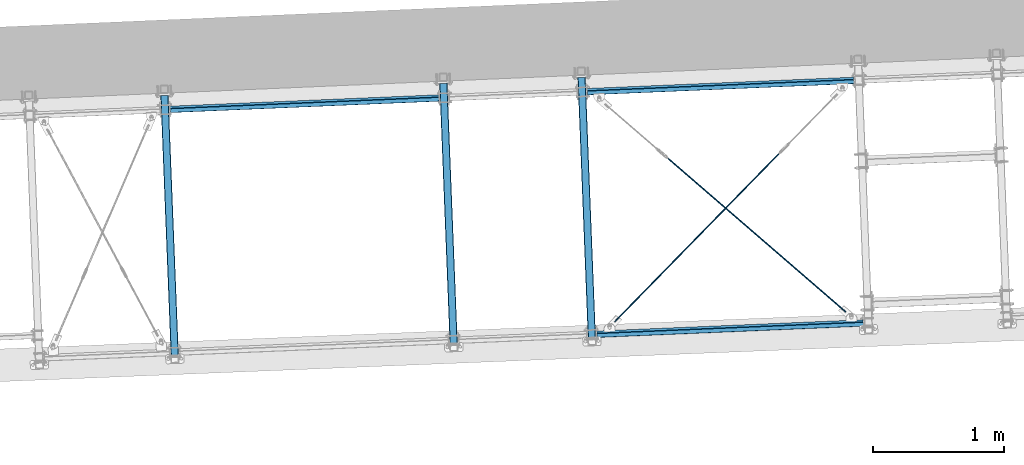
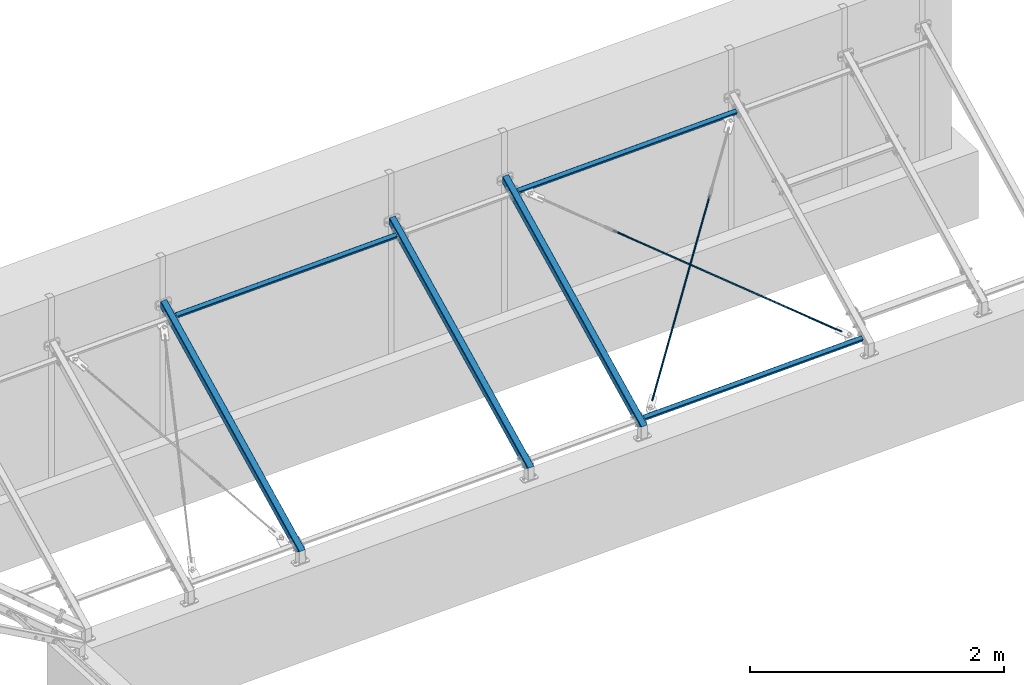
# One storey, part 16 of 288: 8 members, 48 openings.
"""IFC2X3 building model written with IfcOpenShell, lengths in millimetres."""

from ifc_helpers import new_model, entity, si_unit, converted_unit, frame, frame_2d, origin, origin_with_axes, origin_2d, place, context, project, spatial, hollow_rectangle, circle, extrude, clip, halfspace, material, element, save


model = new_model("IFC2X3")

# Units and contexts
model_context = context("Model", 3, precision=1e-09, world=origin_with_axes())
ifc_project = project(units=[si_unit("LENGTHUNIT", "METRE", prefix="MILLI"), si_unit("AREAUNIT", "SQUARE_METRE"), si_unit("VOLUMEUNIT", "CUBIC_METRE"), converted_unit("PLANEANGLEUNIT", "DEGREE", entity("IfcPlaneAngleMeasure", 0.01745329), si_unit("PLANEANGLEUNIT", "RADIAN"), dimensions=[0, 0, 0, 0, 0, 0, 0])], contexts=[model_context])

# Site, building, storey
site_placement = place(None, origin_with_axes())
site = spatial("IfcSite", under=ifc_project, at=site_placement, Name="Remont ?wietlik?w nad MC w NCPP w Opolu", CompositionType="ELEMENT")
building_placement = place(site_placement, origin_with_axes())
building = spatial("IfcBuilding", under=site, at=building_placement, Name="Konstrukcja 1", CompositionType="ELEMENT")
storey_placement = place(building_placement, origin_with_axes())
storey = spatial("IfcBuildingStorey", under=building, at=storey_placement, Name="Default Storey", CompositionType="ELEMENT", Elevation=0.0)

# Member, openings
ifc_material_1 = material(Name="S235")
member_1_placement = place(None, frame((3388.943951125, 15743.661736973, 1324.345231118), z_axis=(0.034017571, -0.862871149, -0.504277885), x_axis=(-0.019865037, 0.503886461, -0.863541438)))
member_1 = element("IfcMember", 1, at=member_1_placement, inside=storey, material=ifc_material_1, Name="Horizontal_Beam", ObjectType="Horizontal_Beam", context=model_context, shape_type="Clipping", body=[
    clip(clip(clip(extrude(hollow_rectangle(XDim=60.0, YDim=60.0, WallThickness=3.0, InnerFilletRadius=3.0, OuterFilletRadius=6.0, at=origin_2d()), origin(), (0.0, 0.0, 1.0), 2457.666448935), halfspace(frame((1119.797490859, -4006.501277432, 708.64418541), z_axis=(-0.504277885, -2.27e-07, 0.863541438), x_axis=(0.0, 1.0, 2.09e-07)), True)), halfspace(frame((1111.641855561, -4006.504803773, 722.610153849), z_axis=(-0.504277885, 0.0, 0.863541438), x_axis=(0.0, 1.0, 0.0)), True)), halfspace(frame((-10119.979373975, -4006.504700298, 8218.193877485), z_axis=(-0.497856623, 0.0, -0.867259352), x_axis=(0.0, -1.0, 0.0)), True)),
])
opening_1_placement = place(member_1_placement, frame((7.306889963, 26.273066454, 159.307733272), z_axis=(-0.001744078, -0.999995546, 0.002422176), x_axis=(0.999998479, -0.001744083, 0.0)))
element("IfcOpeningElement", 2, at=opening_1_placement, cuts=member_1, ObjectType="Opening", context=model_context, shape_type="SweptSolid", body=[
    extrude(circle(Radius=7.001, at=frame_2d((-7.000994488, -0.008785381), x_axis=(1.0, 0.0))), origin(), (0.0, 0.0, -1.0), 4.232758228),
])
opening_2_placement = place(member_1_placement, frame((7.206838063, 26.467015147, 239.307435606), z_axis=(-0.001744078, -0.999995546, 0.002422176), x_axis=(0.999998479, -0.001744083, 0.0)))
element("IfcOpeningElement", 3, at=opening_2_placement, cuts=member_1, ObjectType="Opening", context=model_context, shape_type="SweptSolid", body=[
    extrude(circle(Radius=7.001, at=frame_2d((-7.000994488, -0.008785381), x_axis=(1.0, 0.0))), origin(), (0.0, 0.0, -1.0), 4.232758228),
])
opening_3_placement = place(member_1_placement, frame((7.306889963, 26.273066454, 159.307733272), z_axis=(-0.001744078, -0.999995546, 0.002422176), x_axis=(0.999998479, -0.001744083, 0.0)))
element("IfcOpeningElement", 4, at=opening_3_placement, cuts=member_1, ObjectType="Opening", context=model_context, shape_type="SweptSolid", body=[
    extrude(circle(Radius=7.001, at=frame_2d((-7.000994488, -0.008785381), x_axis=(1.0, 0.0))), origin(), (0.0, 0.0, -1.0), 4.038808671),
])
opening_4_placement = place(member_1_placement, frame((7.206838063, 26.467015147, 239.307435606), z_axis=(-0.001744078, -0.999995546, 0.002422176), x_axis=(0.999998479, -0.001744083, 0.0)))
element("IfcOpeningElement", 5, at=opening_4_placement, cuts=member_1, ObjectType="Opening", context=model_context, shape_type="SweptSolid", body=[
    extrude(circle(Radius=7.001, at=frame_2d((-7.000994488, -0.008785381), x_axis=(1.0, 0.0))), origin(), (0.0, 0.0, -1.0), 4.038808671),
])
opening_5_placement = place(member_1_placement, frame((7.207477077, -30.726933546, 159.445797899), z_axis=(-0.001744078, -0.999995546, 0.002422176), x_axis=(0.999998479, -0.001744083, 0.0)))
element("IfcOpeningElement", 6, at=opening_5_placement, cuts=member_1, ObjectType="Opening", context=model_context, shape_type="SweptSolid", body=[
    extrude(circle(Radius=7.001, at=frame_2d((-7.000994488, -0.008785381), x_axis=(1.0, 0.0))), origin(), (0.0, 0.0, -1.0), 4.232758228),
])
opening_6_placement = place(member_1_placement, frame((7.107425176, -30.532984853, 239.445500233), z_axis=(-0.001744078, -0.999995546, 0.002422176), x_axis=(0.999998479, -0.001744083, 0.0)))
element("IfcOpeningElement", 7, at=opening_6_placement, cuts=member_1, ObjectType="Opening", context=model_context, shape_type="SweptSolid", body=[
    extrude(circle(Radius=7.001, at=frame_2d((-7.000994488, -0.008785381), x_axis=(1.0, 0.0))), origin(), (0.0, 0.0, -1.0), 4.232758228),
])
opening_7_placement = place(member_1_placement, frame((7.207477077, -30.726933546, 159.445797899), z_axis=(-0.001744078, -0.999995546, 0.002422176), x_axis=(0.999998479, -0.001744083, 0.0)))
element("IfcOpeningElement", 8, at=opening_7_placement, cuts=member_1, ObjectType="Opening", context=model_context, shape_type="SweptSolid", body=[
    extrude(circle(Radius=7.001, at=frame_2d((-7.000994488, -0.008785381), x_axis=(1.0, 0.0))), origin(), (0.0, 0.0, -1.0), 4.038808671),
])
opening_8_placement = place(member_1_placement, frame((7.107425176, -30.532984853, 239.445500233), z_axis=(-0.001744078, -0.999995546, 0.002422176), x_axis=(0.999998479, -0.001744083, 0.0)))
element("IfcOpeningElement", 9, at=opening_8_placement, cuts=member_1, ObjectType="Opening", context=model_context, shape_type="SweptSolid", body=[
    extrude(circle(Radius=7.001, at=frame_2d((-7.000994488, -0.008785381), x_axis=(1.0, 0.0))), origin(), (0.0, 0.0, -1.0), 4.038808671),
])
opening_9_placement = place(member_1_placement, frame((6.551466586, 26.273066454, 2308.498972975), z_axis=(-0.001744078, -0.999995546, 0.002422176), x_axis=(0.999998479, -0.001744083, 0.0)))
element("IfcOpeningElement", 10, at=opening_9_placement, cuts=member_1, ObjectType="Opening", context=model_context, shape_type="SweptSolid", body=[
    extrude(circle(Radius=7.001, at=frame_2d((-7.000994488, -0.008785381), x_axis=(1.0, 0.0))), origin(), (0.0, 0.0, -1.0), 4.232758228),
])
opening_10_placement = place(member_1_placement, frame((6.451414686, 26.467015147, 2388.498675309), z_axis=(-0.001744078, -0.999995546, 0.002422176), x_axis=(0.999998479, -0.001744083, 0.0)))
element("IfcOpeningElement", 11, at=opening_10_placement, cuts=member_1, ObjectType="Opening", context=model_context, shape_type="SweptSolid", body=[
    extrude(circle(Radius=7.001, at=frame_2d((-7.000994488, -0.008785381), x_axis=(1.0, 0.0))), origin(), (0.0, 0.0, -1.0), 4.232758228),
])
opening_11_placement = place(member_1_placement, frame((6.551466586, 26.273066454, 2308.498972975), z_axis=(-0.001744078, -0.999995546, 0.002422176), x_axis=(0.999998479, -0.001744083, 0.0)))
element("IfcOpeningElement", 12, at=opening_11_placement, cuts=member_1, ObjectType="Opening", context=model_context, shape_type="SweptSolid", body=[
    extrude(circle(Radius=7.001, at=frame_2d((-7.000994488, -0.008785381), x_axis=(1.0, 0.0))), origin(), (0.0, 0.0, -1.0), 4.038808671),
])
opening_12_placement = place(member_1_placement, frame((6.451414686, 26.467015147, 2388.498675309), z_axis=(-0.001744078, -0.999995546, 0.002422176), x_axis=(0.999998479, -0.001744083, 0.0)))
element("IfcOpeningElement", 13, at=opening_12_placement, cuts=member_1, ObjectType="Opening", context=model_context, shape_type="SweptSolid", body=[
    extrude(circle(Radius=7.001, at=frame_2d((-7.000994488, -0.008785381), x_axis=(1.0, 0.0))), origin(), (0.0, 0.0, -1.0), 4.038808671),
])
opening_13_placement = place(member_1_placement, frame((6.4520537, -30.726933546, 2308.637037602), z_axis=(-0.001744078, -0.999995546, 0.002422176), x_axis=(0.999998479, -0.001744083, 0.0)))
element("IfcOpeningElement", 14, at=opening_13_placement, cuts=member_1, ObjectType="Opening", context=model_context, shape_type="SweptSolid", body=[
    extrude(circle(Radius=7.001, at=frame_2d((-7.000994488, -0.008785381), x_axis=(1.0, 0.0))), origin(), (0.0, 0.0, -1.0), 4.232758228),
])
opening_14_placement = place(member_1_placement, frame((6.352001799, -30.532984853, 2388.636739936), z_axis=(-0.001744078, -0.999995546, 0.002422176), x_axis=(0.999998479, -0.001744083, 0.0)))
element("IfcOpeningElement", 15, at=opening_14_placement, cuts=member_1, ObjectType="Opening", context=model_context, shape_type="SweptSolid", body=[
    extrude(circle(Radius=7.001, at=frame_2d((-7.000994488, -0.008785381), x_axis=(1.0, 0.0))), origin(), (0.0, 0.0, -1.0), 4.232758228),
])
opening_15_placement = place(member_1_placement, frame((6.4520537, -30.726933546, 2308.637037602), z_axis=(-0.001744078, -0.999995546, 0.002422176), x_axis=(0.999998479, -0.001744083, 0.0)))
element("IfcOpeningElement", 16, at=opening_15_placement, cuts=member_1, ObjectType="Opening", context=model_context, shape_type="SweptSolid", body=[
    extrude(circle(Radius=7.001, at=frame_2d((-7.000994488, -0.008785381), x_axis=(1.0, 0.0))), origin(), (0.0, 0.0, -1.0), 4.038808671),
])
opening_16_placement = place(member_1_placement, frame((6.352001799, -30.532984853, 2388.636739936), z_axis=(-0.001744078, -0.999995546, 0.002422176), x_axis=(0.999998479, -0.001744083, 0.0)))
element("IfcOpeningElement", 17, at=opening_16_placement, cuts=member_1, ObjectType="Opening", context=model_context, shape_type="SweptSolid", body=[
    extrude(circle(Radius=7.001, at=frame_2d((-7.000994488, -0.008785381), x_axis=(1.0, 0.0))), origin(), (0.0, 0.0, -1.0), 4.038808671),
])

member_2_placement = place(None, frame((5521.976330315, 15834.101906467, 1323.354013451), z_axis=(0.03402463, -0.863050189, -0.503970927), x_axis=(-0.019852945, 0.503579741, -0.863720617)))
member_2 = element("IfcMember", 18, at=member_2_placement, inside=storey, material=ifc_material_1, Name="Horizontal_Beam", ObjectType="Horizontal_Beam", context=model_context, shape_type="Clipping", body=[
    clip(clip(clip(extrude(hollow_rectangle(XDim=60.0, YDim=60.0, WallThickness=3.0, InnerFilletRadius=3.0, OuterFilletRadius=6.0, at=origin_2d()), origin(), (0.0, 0.0, 1.0), 2457.171743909), halfspace(frame((1120.040905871, -6141.440693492, 706.293579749), z_axis=(-0.503970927, -2.27e-07, 0.863720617), x_axis=(0.0, 1.0, 2.09e-07)), True)), halfspace(frame((1112.050379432, -6141.444221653, 719.987985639), z_axis=(-0.503970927, 0.0, 0.863720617), x_axis=(0.0, 1.0, 0.0)), True)), halfspace(frame((-10122.664907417, -6141.444118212, 8221.627799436), z_axis=(-0.498010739, 0.0, -0.867170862), x_axis=(0.0, -1.0, 0.0)), True)),
])
opening_17_placement = place(member_2_placement, frame((0.00278142, 30.617770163, 199.095113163), z_axis=(-0.001743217, -0.999995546, 0.002422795), x_axis=(-0.99999808, 0.001741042, -0.000899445)))
element("IfcOpeningElement", 19, at=opening_17_placement, cuts=member_2, ObjectType="Opening", context=model_context, shape_type="SweptSolid", body=[
    extrude(circle(Radius=7.001, at=frame_2d((0.0, 40.0), x_axis=(1.0, 0.0))), origin(), (0.0, 0.0, 1.0), 4.038808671),
])
opening_18_placement = place(member_2_placement, frame((0.00278142, 30.617770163, 199.095113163), z_axis=(-0.001743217, -0.999995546, 0.002422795), x_axis=(-0.99999808, 0.001741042, -0.000899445)))
element("IfcOpeningElement", 20, at=opening_18_placement, cuts=member_2, ObjectType="Opening", context=model_context, shape_type="SweptSolid", body=[
    extrude(circle(Radius=7.001, at=frame_2d((0.0, -40.0), x_axis=(1.0, 0.0))), origin(), (0.0, 0.0, 1.0), 4.038808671),
])
opening_19_placement = place(member_2_placement, frame((0.00278142, 30.617770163, 199.095113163), z_axis=(-0.001743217, -0.999995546, 0.002422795), x_axis=(-0.99999808, 0.001741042, -0.000899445)))
element("IfcOpeningElement", 21, at=opening_19_placement, cuts=member_2, ObjectType="Opening", context=model_context, shape_type="SweptSolid", body=[
    extrude(circle(Radius=7.001, at=frame_2d((0.0, 40.0), x_axis=(1.0, 0.0))), origin(), (0.0, 0.0, 1.0), 4.232758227),
])
opening_20_placement = place(member_2_placement, frame((0.00278142, 30.617770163, 199.095113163), z_axis=(-0.001743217, -0.999995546, 0.002422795), x_axis=(-0.99999808, 0.001741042, -0.000899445)))
element("IfcOpeningElement", 22, at=opening_20_placement, cuts=member_2, ObjectType="Opening", context=model_context, shape_type="SweptSolid", body=[
    extrude(circle(Radius=7.001, at=frame_2d((0.0, -40.0), x_axis=(1.0, 0.0))), origin(), (0.0, 0.0, 1.0), 4.232758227),
])
opening_21_placement = place(member_2_placement, frame((-0.096582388, -26.382229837, 199.233213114), z_axis=(-0.001743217, -0.999995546, 0.002422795), x_axis=(-0.99999808, 0.001741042, -0.000899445)))
element("IfcOpeningElement", 23, at=opening_21_placement, cuts=member_2, ObjectType="Opening", context=model_context, shape_type="SweptSolid", body=[
    extrude(circle(Radius=7.001, at=frame_2d((0.0, 40.0), x_axis=(1.0, 0.0))), origin(), (0.0, 0.0, 1.0), 4.038808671),
])
opening_22_placement = place(member_2_placement, frame((-0.096582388, -26.382229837, 199.233213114), z_axis=(-0.001743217, -0.999995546, 0.002422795), x_axis=(-0.99999808, 0.001741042, -0.000899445)))
element("IfcOpeningElement", 24, at=opening_22_placement, cuts=member_2, ObjectType="Opening", context=model_context, shape_type="SweptSolid", body=[
    extrude(circle(Radius=7.001, at=frame_2d((0.0, -40.0), x_axis=(1.0, 0.0))), origin(), (0.0, 0.0, 1.0), 4.038808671),
])
opening_23_placement = place(member_2_placement, frame((-0.096582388, -26.382229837, 199.233213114), z_axis=(-0.001743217, -0.999995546, 0.002422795), x_axis=(-0.99999808, 0.001741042, -0.000899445)))
element("IfcOpeningElement", 25, at=opening_23_placement, cuts=member_2, ObjectType="Opening", context=model_context, shape_type="SweptSolid", body=[
    extrude(circle(Radius=7.001, at=frame_2d((0.0, 40.0), x_axis=(1.0, 0.0))), origin(), (0.0, 0.0, 1.0), 4.232758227),
])
opening_24_placement = place(member_2_placement, frame((-0.096582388, -26.382229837, 199.233213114), z_axis=(-0.001743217, -0.999995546, 0.002422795), x_axis=(-0.99999808, 0.001741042, -0.000899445)))
element("IfcOpeningElement", 26, at=opening_24_placement, cuts=member_2, ObjectType="Opening", context=model_context, shape_type="SweptSolid", body=[
    extrude(circle(Radius=7.001, at=frame_2d((0.0, -40.0), x_axis=(1.0, 0.0))), origin(), (0.0, 0.0, 1.0), 4.232758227),
])
opening_25_placement = place(member_2_placement, frame((7.040652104, 26.273066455, 2308.303178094), z_axis=(-0.001743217, -0.999995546, 0.002422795), x_axis=(0.999998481, -0.001743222, 0.0)))
element("IfcOpeningElement", 27, at=opening_25_placement, cuts=member_2, ObjectType="Opening", context=model_context, shape_type="SweptSolid", body=[
    extrude(circle(Radius=7.001, at=frame_2d((-7.000997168, -0.00629703), x_axis=(1.0, 0.0))), origin(), (0.0, 0.0, -1.0), 4.232758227),
])
opening_26_placement = place(member_2_placement, frame((6.969034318, 26.467015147, 2388.302910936), z_axis=(-0.001743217, -0.999995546, 0.002422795), x_axis=(0.999998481, -0.001743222, 0.0)))
element("IfcOpeningElement", 28, at=opening_26_placement, cuts=member_2, ObjectType="Opening", context=model_context, shape_type="SweptSolid", body=[
    extrude(circle(Radius=7.001, at=frame_2d((-7.000997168, -0.00629703), x_axis=(1.0, 0.0))), origin(), (0.0, 0.0, -1.0), 4.232758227),
])
opening_27_placement = place(member_2_placement, frame((7.040652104, 26.273066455, 2308.303178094), z_axis=(-0.001743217, -0.999995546, 0.002422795), x_axis=(0.999998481, -0.001743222, 0.0)))
element("IfcOpeningElement", 29, at=opening_27_placement, cuts=member_2, ObjectType="Opening", context=model_context, shape_type="SweptSolid", body=[
    extrude(circle(Radius=7.001, at=frame_2d((-7.000997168, -0.00629703), x_axis=(1.0, 0.0))), origin(), (0.0, 0.0, -1.0), 4.038808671),
])
opening_28_placement = place(member_2_placement, frame((6.969034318, 26.467015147, 2388.302910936), z_axis=(-0.001743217, -0.999995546, 0.002422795), x_axis=(0.999998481, -0.001743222, 0.0)))
element("IfcOpeningElement", 30, at=opening_28_placement, cuts=member_2, ObjectType="Opening", context=model_context, shape_type="SweptSolid", body=[
    extrude(circle(Radius=7.001, at=frame_2d((-7.000997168, -0.00629703), x_axis=(1.0, 0.0))), origin(), (0.0, 0.0, -1.0), 4.038808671),
])
opening_29_placement = place(member_2_placement, frame((6.941288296, -30.726933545, 2308.441278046), z_axis=(-0.001743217, -0.999995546, 0.002422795), x_axis=(0.999998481, -0.001743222, 0.0)))
element("IfcOpeningElement", 31, at=opening_29_placement, cuts=member_2, ObjectType="Opening", context=model_context, shape_type="SweptSolid", body=[
    extrude(circle(Radius=7.001, at=frame_2d((-7.000997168, -0.00629703), x_axis=(1.0, 0.0))), origin(), (0.0, 0.0, -1.0), 4.232758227),
])
opening_30_placement = place(member_2_placement, frame((6.86967051, -30.532984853, 2388.441010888), z_axis=(-0.001743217, -0.999995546, 0.002422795), x_axis=(0.999998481, -0.001743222, 0.0)))
element("IfcOpeningElement", 32, at=opening_30_placement, cuts=member_2, ObjectType="Opening", context=model_context, shape_type="SweptSolid", body=[
    extrude(circle(Radius=7.001, at=frame_2d((-7.000997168, -0.00629703), x_axis=(1.0, 0.0))), origin(), (0.0, 0.0, -1.0), 4.232758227),
])
opening_31_placement = place(member_2_placement, frame((6.941288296, -30.726933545, 2308.441278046), z_axis=(-0.001743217, -0.999995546, 0.002422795), x_axis=(0.999998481, -0.001743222, 0.0)))
element("IfcOpeningElement", 33, at=opening_31_placement, cuts=member_2, ObjectType="Opening", context=model_context, shape_type="SweptSolid", body=[
    extrude(circle(Radius=7.001, at=frame_2d((-7.000997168, -0.00629703), x_axis=(1.0, 0.0))), origin(), (0.0, 0.0, -1.0), 4.038808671),
])
opening_32_placement = place(member_2_placement, frame((6.86967051, -30.532984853, 2388.441010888), z_axis=(-0.001743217, -0.999995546, 0.002422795), x_axis=(0.999998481, -0.001743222, 0.0)))
element("IfcOpeningElement", 34, at=opening_32_placement, cuts=member_2, ObjectType="Opening", context=model_context, shape_type="SweptSolid", body=[
    extrude(circle(Radius=7.001, at=frame_2d((-7.000997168, -0.00629703), x_axis=(1.0, 0.0))), origin(), (0.0, 0.0, -1.0), 4.038808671),
])

member_3_placement = place(None, frame((6578.615269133, 15878.903197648, 1322.862998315), z_axis=(0.034028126, -0.863138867, -0.503818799), x_axis=(-0.019846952, 0.503427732, -0.863809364)))
member_3 = element("IfcMember", 35, at=member_3_placement, inside=storey, material=ifc_material_1, Name="Horizontal_Beam", ObjectType="Horizontal_Beam", context=model_context, shape_type="Clipping", body=[
    clip(clip(clip(extrude(hollow_rectangle(XDim=60.0, YDim=60.0, WallThickness=3.0, InnerFilletRadius=3.0, OuterFilletRadius=6.0, at=origin_2d()), origin(), (0.0, 0.0, 1.0), 2456.926798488), halfspace(frame((1120.160960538, -7199.024319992, 705.129072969), z_axis=(-0.503818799, -2.27e-07, 0.863809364), x_axis=(0.0, 1.0, 2.09e-07)), True)), halfspace(frame((1112.256818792, -7199.027849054, 718.68091276), z_axis=(-0.503818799, 0.0, 0.863809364), x_axis=(0.0, 1.0, 0.0)), True)), halfspace(frame((-10123.994047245, -7199.027745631, 8223.329299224), z_axis=(-0.4980871, 0.0, -0.867127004), x_axis=(0.0, -1.0, 0.0)), True)),
])
opening_33_placement = place(member_3_placement, frame((7.283054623, 26.273066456, 2308.206168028), z_axis=(-0.00174279, -0.999995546, 0.002423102), x_axis=(0.999998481, -0.001742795, 0.0)))
element("IfcOpeningElement", 36, at=opening_33_placement, cuts=member_3, ObjectType="Opening", context=model_context, shape_type="SweptSolid", body=[
    extrude(circle(Radius=7.001, at=frame_2d((-7.000998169, -0.005064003), x_axis=(1.0, 0.0))), origin(), (0.0, 0.0, -1.0), 4.232758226),
])
opening_34_placement = place(member_3_placement, frame((7.225526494, 26.467015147, 2388.205912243), z_axis=(-0.00174279, -0.999995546, 0.002423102), x_axis=(0.999998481, -0.001742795, 0.0)))
element("IfcOpeningElement", 37, at=opening_34_placement, cuts=member_3, ObjectType="Opening", context=model_context, shape_type="SweptSolid", body=[
    extrude(circle(Radius=7.001, at=frame_2d((-7.000998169, -0.005064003), x_axis=(1.0, 0.0))), origin(), (0.0, 0.0, -1.0), 4.232758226),
])
opening_35_placement = place(member_3_placement, frame((7.283054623, 26.273066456, 2308.206168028), z_axis=(-0.00174279, -0.999995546, 0.002423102), x_axis=(0.999998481, -0.001742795, 0.0)))
element("IfcOpeningElement", 38, at=opening_35_placement, cuts=member_3, ObjectType="Opening", context=model_context, shape_type="SweptSolid", body=[
    extrude(circle(Radius=7.001, at=frame_2d((-7.000998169, -0.005064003), x_axis=(1.0, 0.0))), origin(), (0.0, 0.0, -1.0), 4.038808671),
])
opening_36_placement = place(member_3_placement, frame((7.225526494, 26.467015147, 2388.205912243), z_axis=(-0.00174279, -0.999995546, 0.002423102), x_axis=(0.999998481, -0.001742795, 0.0)))
element("IfcOpeningElement", 39, at=opening_36_placement, cuts=member_3, ObjectType="Opening", context=model_context, shape_type="SweptSolid", body=[
    extrude(circle(Radius=7.001, at=frame_2d((-7.000998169, -0.005064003), x_axis=(1.0, 0.0))), origin(), (0.0, 0.0, -1.0), 4.038808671),
])
opening_37_placement = place(member_3_placement, frame((7.183715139, -30.726933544, 2308.344285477), z_axis=(-0.00174279, -0.999995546, 0.002423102), x_axis=(0.999998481, -0.001742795, 0.0)))
element("IfcOpeningElement", 40, at=opening_37_placement, cuts=member_3, ObjectType="Opening", context=model_context, shape_type="SweptSolid", body=[
    extrude(circle(Radius=7.001, at=frame_2d((-7.000998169, -0.005064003), x_axis=(1.0, 0.0))), origin(), (0.0, 0.0, -1.0), 4.232758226),
])
opening_38_placement = place(member_3_placement, frame((7.12618701, -30.532984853, 2388.344029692), z_axis=(-0.00174279, -0.999995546, 0.002423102), x_axis=(0.999998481, -0.001742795, 0.0)))
element("IfcOpeningElement", 41, at=opening_38_placement, cuts=member_3, ObjectType="Opening", context=model_context, shape_type="SweptSolid", body=[
    extrude(circle(Radius=7.001, at=frame_2d((-7.000998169, -0.005064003), x_axis=(1.0, 0.0))), origin(), (0.0, 0.0, -1.0), 4.232758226),
])
opening_39_placement = place(member_3_placement, frame((7.183715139, -30.726933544, 2308.344285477), z_axis=(-0.00174279, -0.999995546, 0.002423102), x_axis=(0.999998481, -0.001742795, 0.0)))
element("IfcOpeningElement", 42, at=opening_39_placement, cuts=member_3, ObjectType="Opening", context=model_context, shape_type="SweptSolid", body=[
    extrude(circle(Radius=7.001, at=frame_2d((-7.000998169, -0.005064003), x_axis=(1.0, 0.0))), origin(), (0.0, 0.0, -1.0), 4.038808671),
])
opening_40_placement = place(member_3_placement, frame((7.12618701, -30.532984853, 2388.344029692), z_axis=(-0.00174279, -0.999995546, 0.002423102), x_axis=(0.999998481, -0.001742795, 0.0)))
element("IfcOpeningElement", 43, at=opening_40_placement, cuts=member_3, ObjectType="Opening", context=model_context, shape_type="SweptSolid", body=[
    extrude(circle(Radius=7.001, at=frame_2d((-7.000998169, -0.005064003), x_axis=(1.0, 0.0))), origin(), (0.0, 0.0, -1.0), 4.038808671),
])
opening_41_placement = place(member_3_placement, frame((-0.126292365, 30.617770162, 198.999375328), z_axis=(-0.00174279, -0.999995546, 0.002423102), x_axis=(-0.999998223, 0.001741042, -0.000723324)))
element("IfcOpeningElement", 44, at=opening_41_placement, cuts=member_3, ObjectType="Opening", context=model_context, shape_type="SweptSolid", body=[
    extrude(circle(Radius=7.001, at=frame_2d((0.0, 40.0), x_axis=(1.0, 0.0))), origin(), (0.0, 0.0, 1.0), 4.038808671),
])
opening_42_placement = place(member_3_placement, frame((-0.126292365, 30.617770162, 198.999375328), z_axis=(-0.00174279, -0.999995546, 0.002423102), x_axis=(-0.999998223, 0.001741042, -0.000723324)))
element("IfcOpeningElement", 45, at=opening_42_placement, cuts=member_3, ObjectType="Opening", context=model_context, shape_type="SweptSolid", body=[
    extrude(circle(Radius=7.001, at=frame_2d((0.0, -40.0), x_axis=(1.0, 0.0))), origin(), (0.0, 0.0, 1.0), 4.038808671),
])
opening_43_placement = place(member_3_placement, frame((-0.126292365, 30.617770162, 198.999375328), z_axis=(-0.00174279, -0.999995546, 0.002423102), x_axis=(-0.999998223, 0.001741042, -0.000723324)))
element("IfcOpeningElement", 46, at=opening_43_placement, cuts=member_3, ObjectType="Opening", context=model_context, shape_type="SweptSolid", body=[
    extrude(circle(Radius=7.001, at=frame_2d((0.0, 40.0), x_axis=(1.0, 0.0))), origin(), (0.0, 0.0, 1.0), 4.232758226),
])
opening_44_placement = place(member_3_placement, frame((-0.126292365, 30.617770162, 198.999375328), z_axis=(-0.00174279, -0.999995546, 0.002423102), x_axis=(-0.999998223, 0.001741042, -0.000723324)))
element("IfcOpeningElement", 47, at=opening_44_placement, cuts=member_3, ObjectType="Opening", context=model_context, shape_type="SweptSolid", body=[
    extrude(circle(Radius=7.001, at=frame_2d((0.0, -40.0), x_axis=(1.0, 0.0))), origin(), (0.0, 0.0, 1.0), 4.232758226),
])
opening_45_placement = place(member_3_placement, frame((-0.225631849, -26.382229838, 199.137492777), z_axis=(-0.00174279, -0.999995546, 0.002423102), x_axis=(-0.999998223, 0.001741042, -0.000723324)))
element("IfcOpeningElement", 48, at=opening_45_placement, cuts=member_3, ObjectType="Opening", context=model_context, shape_type="SweptSolid", body=[
    extrude(circle(Radius=7.001, at=frame_2d((0.0, 40.0), x_axis=(1.0, 0.0))), origin(), (0.0, 0.0, 1.0), 4.038808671),
])
opening_46_placement = place(member_3_placement, frame((-0.225631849, -26.382229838, 199.137492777), z_axis=(-0.00174279, -0.999995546, 0.002423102), x_axis=(-0.999998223, 0.001741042, -0.000723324)))
element("IfcOpeningElement", 49, at=opening_46_placement, cuts=member_3, ObjectType="Opening", context=model_context, shape_type="SweptSolid", body=[
    extrude(circle(Radius=7.001, at=frame_2d((0.0, -40.0), x_axis=(1.0, 0.0))), origin(), (0.0, 0.0, 1.0), 4.038808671),
])
opening_47_placement = place(member_3_placement, frame((-0.225631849, -26.382229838, 199.137492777), z_axis=(-0.00174279, -0.999995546, 0.002423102), x_axis=(-0.999998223, 0.001741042, -0.000723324)))
element("IfcOpeningElement", 50, at=opening_47_placement, cuts=member_3, ObjectType="Opening", context=model_context, shape_type="SweptSolid", body=[
    extrude(circle(Radius=7.001, at=frame_2d((0.0, 40.0), x_axis=(1.0, 0.0))), origin(), (0.0, 0.0, 1.0), 4.232758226),
])
opening_48_placement = place(member_3_placement, frame((-0.225631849, -26.382229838, 199.137492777), z_axis=(-0.00174279, -0.999995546, 0.002423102), x_axis=(-0.999998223, 0.001741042, -0.000723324)))
element("IfcOpeningElement", 51, at=opening_48_placement, cuts=member_3, ObjectType="Opening", context=model_context, shape_type="SweptSolid", body=[
    extrude(circle(Radius=7.001, at=frame_2d((0.0, -40.0), x_axis=(1.0, 0.0))), origin(), (0.0, 0.0, 1.0), 4.232758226),
])

# Members
for number, where, z_axis, x_axis, name in (
    (52, (8735.334268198, 13940.185470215, 138.992296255), (0.999102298, 0.042361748, -0.000284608), (-0.036464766, 0.86340262, 0.503196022), "TubeBracing"),
    (53, (8662.217925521, 15795.041610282, 1222.129567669), (0.999102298, 0.042361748, -0.000284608), (-0.036464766, 0.86340262, 0.503196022), "TubeBracing"),
):
    element("IfcMember", number, at=place(None, frame(where, z_axis=z_axis, x_axis=x_axis)), inside=storey, material=ifc_material_1, Name=name, ObjectType="TubeBracing", context=model_context, shape_type="SweptSolid", body=[
        extrude(hollow_rectangle(XDim=40.0, YDim=40.0, WallThickness=3.0, InnerFilletRadius=3.0, OuterFilletRadius=6.0, at=origin_2d()), origin(), (0.0, 0.0, -1.0), 2039.327359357),
    ])
member_4_placement = place(None, frame((5490.152305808, 15660.546627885, 1223.033173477), z_axis=(0.999102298, 0.042361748, -0.000284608), x_axis=(-0.036464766, 0.86340262, 0.503196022)))
element("IfcMember", 54, at=member_4_placement, inside=storey, material=ifc_material_1, Name="TubeBracing", ObjectType="TubeBracing", context=model_context, shape_type="SweptSolid", body=[
    extrude(hollow_rectangle(XDim=40.0, YDim=40.0, WallThickness=3.0, InnerFilletRadius=3.0, OuterFilletRadius=6.0, at=origin_2d()), origin(), (0.0, 0.0, -1.0), 2056.949031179),
])
ifc_material_2 = material(Name="S275J2")
member_5_placement = place(None, frame((7191.504272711, 15242.447299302, 946.022038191), z_axis=(-0.702707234, 0.60687595, 0.371354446), x_axis=(-0.021594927, 0.503513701, -0.863717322)))
element("IfcMember", 55, at=member_5_placement, inside=storey, material=ifc_material_2, Name="Tension_Rod#2", ObjectType="Tension_Rod#2", context=model_context, shape_type="Clipping", body=[
    clip(clip(extrude(circle(Radius=6.0, at=origin_2d()), origin(), (0.0, 0.0, -1.0), 2135.89501569), halfspace(frame((-6702.385426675, 14810.065897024, -33.486281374), z_axis=(0.0, 0.0, -1.0), x_axis=(0.366958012, -0.930237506, 0.0)), True)), halfspace(frame((-6702.385426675, 14810.065897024, -2007.408734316), z_axis=(0.0, 0.0, 1.0), x_axis=(-0.366958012, 0.930237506, 0.0)), True)),
])
member_6_placement = place(None, frame((8136.774916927, 15282.526595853, 945.752765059), z_axis=(0.649025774, 0.664189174, 0.370969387), x_axis=(0.021594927, -0.503513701, 0.863717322)))
element("IfcMember", 56, at=member_6_placement, inside=storey, material=ifc_material_2, Name="Tension_Rod#2", ObjectType="Tension_Rod#2", context=model_context, shape_type="Clipping", body=[
    clip(clip(extrude(circle(Radius=6.0, at=origin_2d()), origin(), (0.0, 0.0, -1.0), 2135.89501569), halfspace(frame((6702.385426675, 2579.51019077, -33.486281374), z_axis=(0.0, 0.0, -1.0), x_axis=(0.367348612, 0.930083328, 0.0)), True)), halfspace(frame((6702.385426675, 2579.51019077, -2007.408734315), z_axis=(0.0, 0.0, 1.0), x_axis=(-0.367348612, -0.930083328, 0.0)), True)),
])

save(model, "model.ifc")
